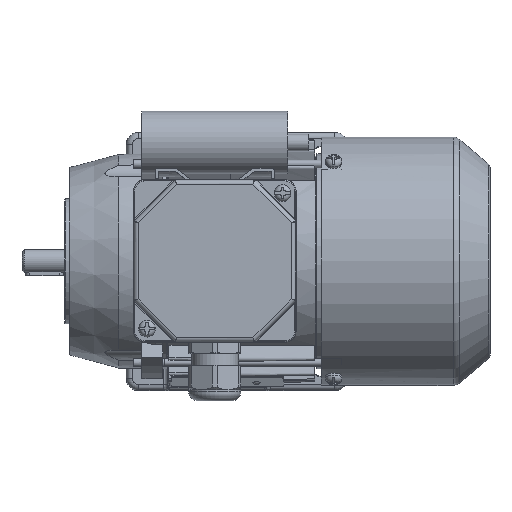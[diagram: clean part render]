
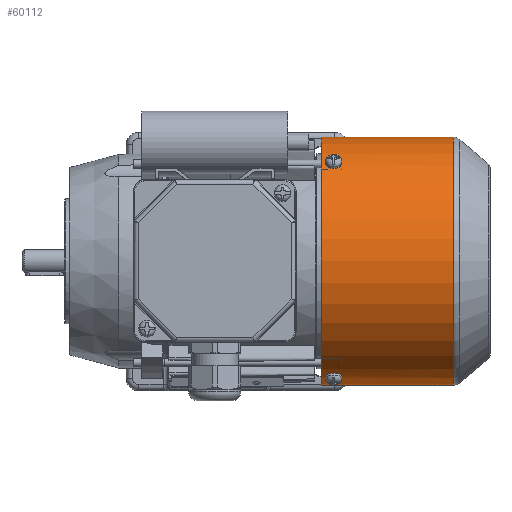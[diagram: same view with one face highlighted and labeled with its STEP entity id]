
A CAD part, top view. The second image highlights one B-rep face of the part: STEP entity #60112.
In plain terms, the highlighted cylindrical face has radius 59.6 mm (diameter 119.2 mm), a full revolution.
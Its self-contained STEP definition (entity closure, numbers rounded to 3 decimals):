
#1489=CIRCLE('',#62931,59.6);
#2054=CIRCLE('',#64110,59.6);
#2056=CIRCLE('',#64115,59.6);
#2057=CIRCLE('',#64117,59.6);
#2059=CIRCLE('',#64121,59.6);
#2061=CIRCLE('',#64125,59.6);
#20658=ORIENTED_EDGE('',*,*,#28498,.T.);
#20659=ORIENTED_EDGE('',*,*,#28495,.T.);
#20660=ORIENTED_EDGE('',*,*,#28503,.T.);
#20661=ORIENTED_EDGE('',*,*,#28501,.T.);
#20662=ORIENTED_EDGE('',*,*,#28517,.F.);
#20663=ORIENTED_EDGE('',*,*,#28518,.F.);
#20664=ORIENTED_EDGE('',*,*,#28511,.T.);
#20665=ORIENTED_EDGE('',*,*,#28508,.T.);
#20666=ORIENTED_EDGE('',*,*,#28516,.T.);
#20667=ORIENTED_EDGE('',*,*,#28514,.T.);
#20668=ORIENTED_EDGE('',*,*,#26854,.F.);
#20669=ORIENTED_EDGE('',*,*,#28504,.T.);
#26854=EDGE_CURVE('',#32072,#32072,#1489,.T.);
#28495=EDGE_CURVE('',#33191,#33194,#34747,.T.);
#28498=EDGE_CURVE('',#33195,#33191,#2054,.F.);
#28501=EDGE_CURVE('',#33197,#33195,#34749,.T.);
#28503=EDGE_CURVE('',#33194,#33197,#2056,.F.);
#28504=EDGE_CURVE('',#33199,#33199,#2057,.F.);
#28508=EDGE_CURVE('',#33200,#33203,#34751,.T.);
#28511=EDGE_CURVE('',#33204,#33200,#2059,.F.);
#28514=EDGE_CURVE('',#33206,#33204,#34753,.T.);
#28516=EDGE_CURVE('',#33203,#33206,#2061,.F.);
#28517=EDGE_CURVE('',#33208,#33209,#34754,.T.);
#28518=EDGE_CURVE('',#33209,#33208,#34755,.T.);
#32072=VERTEX_POINT('',#87360);
#33191=VERTEX_POINT('',#91312);
#33194=VERTEX_POINT('',#91323);
#33195=VERTEX_POINT('',#91333);
#33197=VERTEX_POINT('',#91339);
#33199=VERTEX_POINT('',#91361);
#33200=VERTEX_POINT('',#91364);
#33203=VERTEX_POINT('',#91375);
#33204=VERTEX_POINT('',#91385);
#33206=VERTEX_POINT('',#91391);
#33208=VERTEX_POINT('',#91418);
#33209=VERTEX_POINT('',#91419);
#34747=B_SPLINE_CURVE_WITH_KNOTS('',3,(#91324,#91325,#91326,#91327,#91328,
#91329,#91330),.UNSPECIFIED.,.F.,.F.,(4,1,1,1,4),(0.,0.002,
0.004,0.006,0.008),
 .UNSPECIFIED.);
#34749=B_SPLINE_CURVE_WITH_KNOTS('',3,(#91348,#91349,#91350,#91351,#91352,
#91353,#91354),.UNSPECIFIED.,.F.,.F.,(4,1,1,1,4),(0.,0.002,
0.004,0.006,0.008),
 .UNSPECIFIED.);
#34751=B_SPLINE_CURVE_WITH_KNOTS('',3,(#91376,#91377,#91378,#91379,#91380,
#91381,#91382),.UNSPECIFIED.,.F.,.F.,(4,1,1,1,4),(0.,0.002,
0.004,0.006,0.008),
 .UNSPECIFIED.);
#34753=B_SPLINE_CURVE_WITH_KNOTS('',3,(#91400,#91401,#91402,#91403,#91404,
#91405,#91406),.UNSPECIFIED.,.F.,.F.,(4,1,1,1,4),(0.,0.002,
0.004,0.006,0.008),
 .UNSPECIFIED.);
#34754=B_SPLINE_CURVE_WITH_KNOTS('',3,(#91411,#91412,#91413,#91414,#91415,
#91416,#91417),.UNSPECIFIED.,.F.,.F.,(4,1,1,1,4),(0.,0.002,
0.004,0.006,0.007),
 .UNSPECIFIED.);
#34755=B_SPLINE_CURVE_WITH_KNOTS('',3,(#91420,#91421,#91422,#91423,#91424,
#91425,#91426),.UNSPECIFIED.,.F.,.F.,(4,1,1,1,4),(0.,
0.002,0.004,0.006,0.007),
 .UNSPECIFIED.);
#37383=EDGE_LOOP('',(#20658,#20659,#20660,#20661));
#37384=EDGE_LOOP('',(#20662,#20663));
#37385=EDGE_LOOP('',(#20664,#20665,#20666,#20667));
#37386=EDGE_LOOP('',(#20668));
#37387=EDGE_LOOP('',(#20669));
#40199=FACE_BOUND('',#37383,.T.);
#40200=FACE_BOUND('',#37384,.T.);
#40201=FACE_BOUND('',#37385,.T.);
#40202=FACE_BOUND('',#37386,.T.);
#40203=FACE_BOUND('',#37387,.T.);
#41263=CYLINDRICAL_SURFACE('',#64126,59.6);
#60112=ADVANCED_FACE('',(#40199,#40200,#40201,#40202,#40203),#41263,.T.);
#62931=AXIS2_PLACEMENT_3D('',#87359,#71414,#71415);
#64110=AXIS2_PLACEMENT_3D('',#91336,#74691,#74692);
#64115=AXIS2_PLACEMENT_3D('',#91358,#74702,#74703);
#64117=AXIS2_PLACEMENT_3D('',#91360,#74706,#74707);
#64121=AXIS2_PLACEMENT_3D('',#91388,#74717,#74718);
#64125=AXIS2_PLACEMENT_3D('',#91409,#74726,#74727);
#64126=AXIS2_PLACEMENT_3D('',#91410,#74728,#74729);
#71414=DIRECTION('',(-1.,0.,0.));
#71415=DIRECTION('',(0.,0.,1.));
#74691=DIRECTION('',(-1.,0.,0.));
#74692=DIRECTION('',(0.,0.866,-0.5));
#74702=DIRECTION('',(1.,0.,0.));
#74703=DIRECTION('',(0.,-0.866,0.5));
#74706=DIRECTION('',(1.,0.,0.));
#74707=DIRECTION('',(0.,0.,-1.));
#74717=DIRECTION('',(-1.,0.,0.));
#74718=DIRECTION('',(0.,0.,1.));
#74726=DIRECTION('',(1.,0.,0.));
#74727=DIRECTION('',(0.,0.,-1.));
#74728=DIRECTION('',(-1.,0.,0.));
#74729=DIRECTION('',(0.,0.,1.));
#87359=CARTESIAN_POINT('',(43.5,0.,0.));
#87360=CARTESIAN_POINT('',(43.5,0.,59.6));
#91312=CARTESIAN_POINT('',(52.,46.437,37.36));
#91323=CARTESIAN_POINT('',(47.,46.437,37.36));
#91324=CARTESIAN_POINT('',(52.,46.437,37.36));
#91325=CARTESIAN_POINT('',(52.,46.023,37.874));
#91326=CARTESIAN_POINT('',(51.458,45.191,38.867));
#91327=CARTESIAN_POINT('',(49.502,44.648,39.479));
#91328=CARTESIAN_POINT('',(47.542,45.19,38.869));
#91329=CARTESIAN_POINT('',(47.,46.023,37.874));
#91330=CARTESIAN_POINT('',(47.,46.437,37.36));
#91333=CARTESIAN_POINT('',(52.,47.484,36.02));
#91336=CARTESIAN_POINT('',(52.,0.,0.));
#91339=CARTESIAN_POINT('',(47.,47.484,36.02));
#91348=CARTESIAN_POINT('',(47.,47.484,36.02));
#91349=CARTESIAN_POINT('',(47.,47.883,35.493));
#91350=CARTESIAN_POINT('',(47.542,48.645,34.446));
#91351=CARTESIAN_POINT('',(49.498,49.108,33.771));
#91352=CARTESIAN_POINT('',(51.458,48.646,34.444));
#91353=CARTESIAN_POINT('',(52.,47.883,35.493));
#91354=CARTESIAN_POINT('',(52.,47.484,36.02));
#91358=CARTESIAN_POINT('',(47.,0.,0.));
#91360=CARTESIAN_POINT('',(106.809,0.,0.));
#91361=CARTESIAN_POINT('',(106.809,0.,-59.6));
#91364=CARTESIAN_POINT('',(52.,-55.573,21.536));
#91375=CARTESIAN_POINT('',(47.,-55.573,21.536));
#91376=CARTESIAN_POINT('',(52.,-55.573,21.536));
#91377=CARTESIAN_POINT('',(52.,-55.812,20.92));
#91378=CARTESIAN_POINT('',(51.458,-56.255,19.703));
#91379=CARTESIAN_POINT('',(49.502,-56.514,18.927));
#91380=CARTESIAN_POINT('',(47.542,-56.256,19.701));
#91381=CARTESIAN_POINT('',(47.,-55.812,20.92));
#91382=CARTESIAN_POINT('',(47.,-55.573,21.536));
#91385=CARTESIAN_POINT('',(52.,-54.936,23.112));
#91388=CARTESIAN_POINT('',(52.,0.,0.));
#91391=CARTESIAN_POINT('',(47.,-54.936,23.112));
#91400=CARTESIAN_POINT('',(47.,-54.936,23.112));
#91401=CARTESIAN_POINT('',(47.,-54.68,23.721));
#91402=CARTESIAN_POINT('',(47.542,-54.154,24.905));
#91403=CARTESIAN_POINT('',(49.498,-53.8,25.643));
#91404=CARTESIAN_POINT('',(51.458,-54.153,24.907));
#91405=CARTESIAN_POINT('',(52.,-54.68,23.721));
#91406=CARTESIAN_POINT('',(52.,-54.936,23.112));
#91409=CARTESIAN_POINT('',(47.,0.,0.));
#91410=CARTESIAN_POINT('',(-16.5,0.,0.));
#91411=CARTESIAN_POINT('',(52.,8.295,-59.02));
#91412=CARTESIAN_POINT('',(51.937,7.681,-59.106));
#91413=CARTESIAN_POINT('',(51.356,6.499,-59.249));
#91414=CARTESIAN_POINT('',(49.502,5.777,-59.318));
#91415=CARTESIAN_POINT('',(47.649,6.493,-59.25));
#91416=CARTESIAN_POINT('',(47.063,7.681,-59.106));
#91417=CARTESIAN_POINT('',(47.,8.295,-59.02));
#91418=CARTESIAN_POINT('',(52.,8.295,-59.02));
#91419=CARTESIAN_POINT('',(47.,8.295,-59.02));
#91420=CARTESIAN_POINT('',(47.,8.295,-59.02));
#91421=CARTESIAN_POINT('',(47.063,8.908,-58.934));
#91422=CARTESIAN_POINT('',(47.644,10.084,-58.746));
#91423=CARTESIAN_POINT('',(49.498,10.797,-58.613));
#91424=CARTESIAN_POINT('',(51.351,10.09,-58.745));
#91425=CARTESIAN_POINT('',(51.937,8.908,-58.934));
#91426=CARTESIAN_POINT('',(52.,8.295,-59.02));
